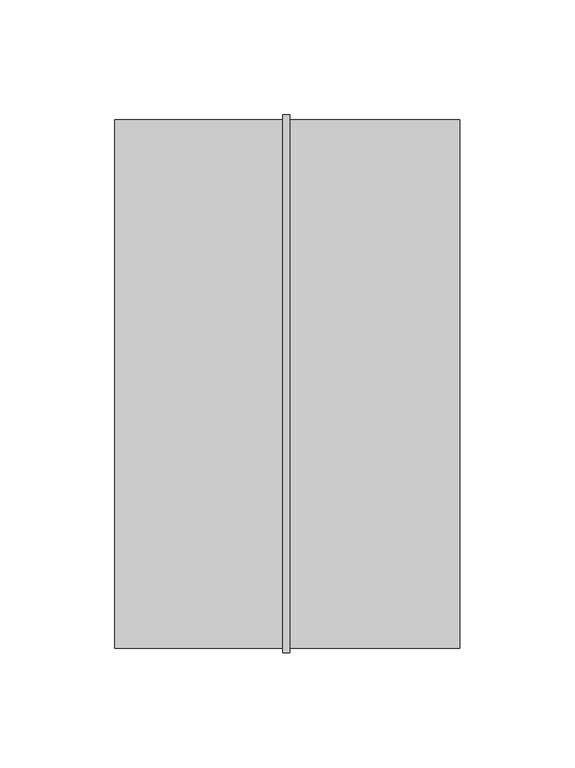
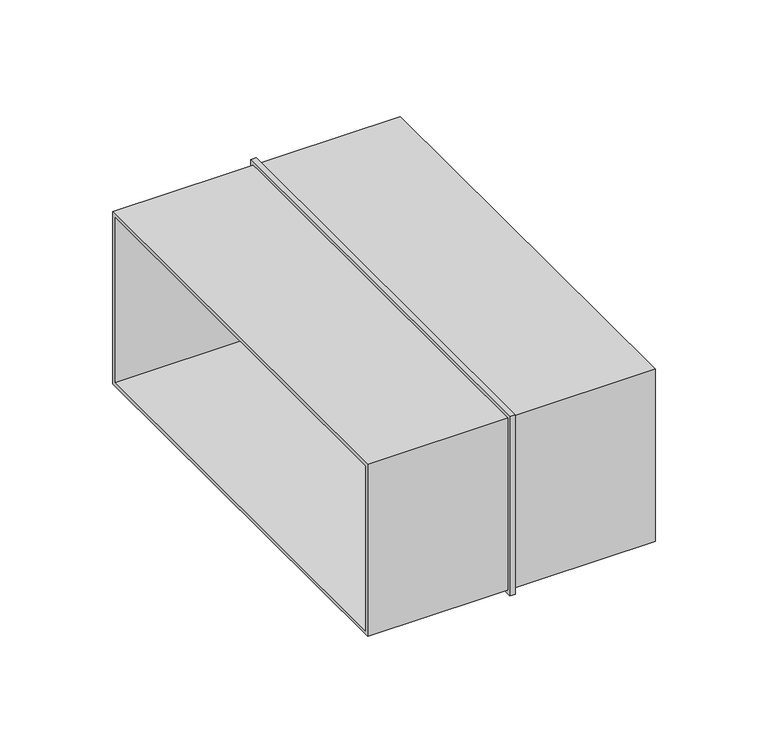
"""IFC4 building model written with IfcOpenShell, lengths in millimetres: proxy geometry, 11051270_D_DFK-L : 28996399_D_11051270_DFK-L."""

from ifc_helpers import new_model, si_unit, frame, origin, place, context, project, spatial, polyline, outline, extrude, source, transform, mapped, element, save


def specialty_equipment_ab32b04e(model_context):
    return source(origin(), model_context, "Body", "SweptSolid", [
        extrude(outline(polyline([(-115.0, 47.5), (115.0, 47.5), (115.0, -47.5), (-115.0, -47.5), (-115.0, 47.5)]), holes=[polyline([(113.0, 45.5), (-113.0, 45.5), (-113.0, -45.5), (113.0, -45.5), (113.0, 45.5)])]), frame((0.0, 0.0, 0.0), z_axis=(1.0, 0.0, 0.0), x_axis=(0.0, 1.0, 0.0)), (0.0, 0.0, 1.0), 150.0),
        extrude(outline(polyline([(-117.0, 49.5), (117.0, 49.5), (117.0, -49.5), (-117.0, -49.5), (-117.0, 49.5)]), holes=[polyline([(115.0, 47.5), (-115.0, 47.5), (-115.0, -47.5), (115.0, -47.5), (115.0, 47.5)])]), frame((73.0, 0.0, 0.0), z_axis=(1.0, 0.0, 0.0), x_axis=(0.0, 1.0, 0.0)), (0.0, 0.0, 1.0), 3.0),
    ])


if __name__ == "__main__":
    model = new_model("IFC4")
    model_context = context("Model", 3, world=origin())
    ifc_project = project(units=[si_unit("LENGTHUNIT", "METRE", prefix="MILLI")], contexts=[model_context])
    site = spatial("IfcSite", under=ifc_project)
    building = spatial("IfcBuilding", under=site)
    placement = place(None, origin())
    specialty_equipment_shape = specialty_equipment_ab32b04e(model_context)
    element("IfcBuildingElementProxy", 1, Name="11051270_D_DFK-L : 28996399_D_11051270_DFK-L", ObjectType="11051270_D_DFK-L : 28996399_D_11051270_DFK-L", at=placement, inside=building, context=model_context, shape_type="MappedRepresentation", body=[
        mapped(specialty_equipment_shape, transform((0.0, 0.0, 0.0), x_axis=(1.0, 0.0, 0.0), y_axis=(0.0, 1.0, 0.0), z_axis=(0.0, 0.0, 1.0))),
    ])
    save(model, "model.ifc")
